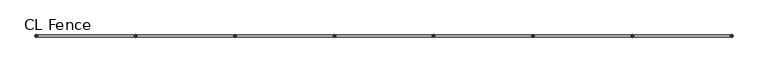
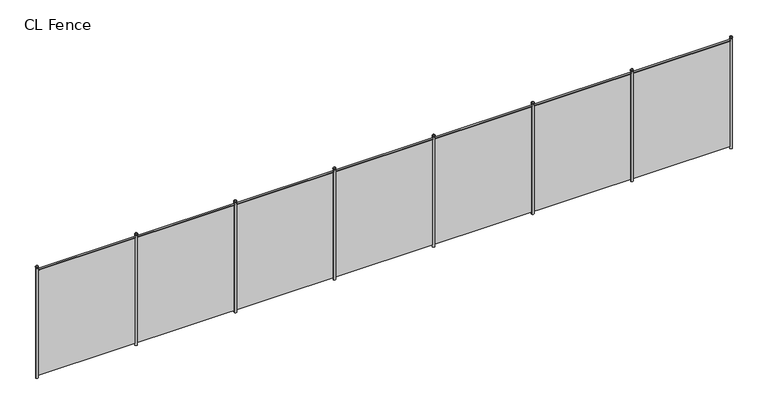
"""IFC4 building model written with IfcOpenShell, lengths in millimetres: geographic element geometry, Alambrado : CL Fence."""

from ifc_helpers import new_model, si_unit, point, frame, frame_2d, origin, place, context, project, spatial, polyline, circle_curve, ellipse_curve, trimmed, segment, composite_curve, outline, extrude, source, transform, mapped, element, save
from ifc_brep_helpers import plane_surface, cylinder_surface, revolved_surface, advanced_brep


def cl_fence_b906ae02(model_context):
    return source(origin(), model_context, "Body", "SolidModel", [
        advanced_brep(
        [(15463.5130985, 0.0, 3055.5625), (15524.4994952, 0.0, 3055.5625), (15525.7562969, 0.0, 3055.5625), (15462.2562969, 0.0, 3055.5625), (15494.0062969, 0.0, 3086.0556984), (15462.2562969, 0.0, 3033.3375), (15525.7562969, 0.0, 3033.3375), (15494.0062969, 0.0, 3033.3375), (15462.2562969, 0.0, 3050.8), (15525.7562969, 0.0, 3050.8)],
        [
            (0, 1, circle_curve(frame((15494.0062969, 0.0, 3055.5625), z_axis=(0.0, 0.0, -1.0), x_axis=(1.0, 0.0, 0.0)), 30.4931984)),
            (1, 2),
            (2, 3, circle_curve(frame((15494.0062969, 0.0, 3055.5625), z_axis=(0.0, 0.0, 1.0), x_axis=(1.0, 0.0, 0.0)), 31.75)),
            (3, 0),
            (1, 0, circle_curve(frame((15494.0062969, 0.0, 3055.5625), z_axis=(0.0, 0.0, -1.0), x_axis=(1.0, 0.0, 0.0)), 30.4931984)),
            (3, 2, circle_curve(frame((15494.0062969, 0.0, 3055.5625), z_axis=(0.0, 0.0, 1.0), x_axis=(1.0, 0.0, 0.0)), 31.75)),
            (4, 1, circle_curve(frame((15487.1506297, 0.0, 3048.7068328), z_axis=(0.0, 1.0, 0.0), x_axis=(1.0, 0.0, 0.0)), 37.9728578)),
            (0, 4, circle_curve(frame((15500.8619641, 0.0, 3048.7068328), z_axis=(0.0, 1.0, 0.0), x_axis=(-1.0, 0.0, 0.0)), 37.9728578)),
            (5, 6, circle_curve(frame((15494.0062969, 0.0, 3033.3375), z_axis=(0.0, 0.0, -1.0), x_axis=(1.0, 0.0, 0.0)), 31.75)),
            (6, 7),
            (7, 5),
            (6, 5, circle_curve(frame((15494.0062969, 0.0, 3033.3375), z_axis=(0.0, 0.0, -1.0), x_axis=(1.0, 0.0, 0.0)), 31.75)),
            (8, 9, circle_curve(frame((15494.0062969, 0.0, 3050.8), z_axis=(0.0, 0.0, -1.0), x_axis=(1.0, 0.0, 0.0)), 31.75)),
            (9, 6),
            (5, 8),
            (9, 8, circle_curve(frame((15494.0062969, 0.0, 3050.8), z_axis=(0.0, 0.0, -1.0), x_axis=(1.0, 0.0, 0.0)), 31.75)),
            (2, 9, circle_curve(frame((15525.7562969, 0.0, 3053.18125), z_axis=(0.0, 1.0, 0.0), x_axis=(1.0, 0.0, 0.0)), 2.38125)),
            (8, 3, circle_curve(frame((15462.2562969, 0.0, 3053.18125), z_axis=(0.0, 1.0, 0.0), x_axis=(-1.0, 0.0, 0.0)), 2.38125)),
        ],
        [
            plane_surface(frame((15494.0062969, 0.0, 3055.5625), z_axis=(0.0, 0.0, 1.0), x_axis=(1.0, 0.0, 0.0))),
            revolved_surface(trimmed(ellipse_curve(frame((15487.1506297, 0.0, 3048.7068328), z_axis=(0.0, -1.0, 0.0), x_axis=(1.0, 0.0, 0.0)), 37.9728578, 37.9728578), [point((15524.4994952, 0.0, 3055.5625))], [point((15494.0062969, 0.0, 3086.0556984))], True, "CARTESIAN"), (15494.0062969, 0.0, 3112.7125), (0.0, 0.0, 1.0)),
            plane_surface(frame((15494.0062969, 0.0, 3033.3375), z_axis=(0.0, 0.0, -1.0), x_axis=(1.0, 0.0, 0.0))),
            cylinder_surface(frame((15494.0062969, 0.0, 3112.7125), z_axis=(0.0, 0.0, 1.0), x_axis=(1.0, 0.0, 0.0)), 31.75),
            revolved_surface(trimmed(ellipse_curve(frame((15525.7562969, 0.0, 3053.18125), z_axis=(0.0, -1.0, 0.0), x_axis=(1.0, 0.0, 0.0)), 2.38125, 2.38125), [point((15525.7562969, 0.0, 3050.8))], [point((15525.7562969, 0.0, 3055.5625))], True, "CARTESIAN"), (15494.0062969, 0.0, 3112.7125), (0.0, 0.0, 1.0)),
        ],
        [
            (0, [[1, 2, 3, 4]]),
            (0, [[5, -4, 6, -2]]),
            (1, [[7, -1, 8]]),
            (1, [[-8, -5, -7]]),
            (2, [[9, 10, 11]]),
            (2, [[12, -11, -10]]),
            (3, [[13, 14, -9, 15]]),
            (3, [[16, -15, -12, -14]]),
            (4, [[-3, 17, -13, 18]]),
            (4, [[-6, -18, -16, -17]]),
        ],
    ),
        advanced_brep(
        [(15494.0062969, 0.0, 3050.8), (15524.1687969, 0.0, 3050.8), (15463.8437969, 0.0, 3050.8), (15463.8437969, 0.0, 0.0), (15524.1687969, 0.0, 0.0), (15494.0062969, 0.0, 0.0)],
        [
            (0, 1),
            (1, 2, circle_curve(frame((15494.0062969, 0.0, 3050.8), z_axis=(0.0, 0.0, 1.0), x_axis=(1.0, 0.0, 0.0)), 30.1625)),
            (2, 0),
            (2, 1, circle_curve(frame((15494.0062969, 0.0, 3050.8), z_axis=(0.0, 0.0, 1.0), x_axis=(1.0, 0.0, 0.0)), 30.1625)),
            (3, 4, circle_curve(frame((15494.0062969, 0.0, 0.0), z_axis=(0.0, 0.0, -1.0), x_axis=(1.0, 0.0, 0.0)), 30.1625)),
            (4, 5),
            (5, 3),
            (4, 3, circle_curve(frame((15494.0062969, 0.0, 0.0), z_axis=(0.0, 0.0, -1.0), x_axis=(1.0, 0.0, 0.0)), 30.1625)),
            (1, 4),
            (3, 2),
        ],
        [
            plane_surface(frame((15494.0062969, 0.0, 3050.8), z_axis=(0.0, 0.0, 1.0), x_axis=(1.0, 0.0, 0.0))),
            plane_surface(frame((15494.0062969, 0.0, 0.0), z_axis=(0.0, 0.0, -1.0), x_axis=(1.0, 0.0, 0.0))),
            cylinder_surface(frame((15494.0062969, 0.0, 3101.6), z_axis=(0.0, 0.0, 1.0), x_axis=(1.0, 0.0, 0.0)), 30.1625),
        ],
        [
            (0, [[1, 2, 3]]),
            (0, [[-3, 4, -1]]),
            (1, [[5, 6, 7]]),
            (1, [[8, -7, -6]]),
            (2, [[-2, 9, -5, 10]]),
            (2, [[-4, -10, -8, -9]]),
        ],
    ),
        advanced_brep(
        [(12881.1787157, 0.0, 3055.5625), (12942.1651124, 0.0, 3055.5625), (12943.4219141, 0.0, 3055.5625), (12879.9219141, 0.0, 3055.5625), (12911.6719141, 0.0, 3086.0556984), (12879.9219141, 0.0, 3033.3375), (12943.4219141, 0.0, 3033.3375), (12911.6719141, 0.0, 3033.3375), (12879.9219141, 0.0, 3050.8), (12943.4219141, 0.0, 3050.8)],
        [
            (0, 1, circle_curve(frame((12911.6719141, 0.0, 3055.5625), z_axis=(0.0, 0.0, -1.0), x_axis=(1.0, 0.0, 0.0)), 30.4931984)),
            (1, 2),
            (2, 3, circle_curve(frame((12911.6719141, 0.0, 3055.5625), z_axis=(0.0, 0.0, 1.0), x_axis=(1.0, 0.0, 0.0)), 31.75)),
            (3, 0),
            (1, 0, circle_curve(frame((12911.6719141, 0.0, 3055.5625), z_axis=(0.0, 0.0, -1.0), x_axis=(1.0, 0.0, 0.0)), 30.4931984)),
            (3, 2, circle_curve(frame((12911.6719141, 0.0, 3055.5625), z_axis=(0.0, 0.0, 1.0), x_axis=(1.0, 0.0, 0.0)), 31.75)),
            (4, 1, circle_curve(frame((12904.8162468, 0.0, 3048.7068328), z_axis=(0.0, 1.0, 0.0), x_axis=(1.0, 0.0, 0.0)), 37.9728578)),
            (0, 4, circle_curve(frame((12918.5275813, 0.0, 3048.7068328), z_axis=(0.0, 1.0, 0.0), x_axis=(-1.0, 0.0, 0.0)), 37.9728578)),
            (5, 6, circle_curve(frame((12911.6719141, 0.0, 3033.3375), z_axis=(0.0, 0.0, -1.0), x_axis=(1.0, 0.0, 0.0)), 31.75)),
            (6, 7),
            (7, 5),
            (6, 5, circle_curve(frame((12911.6719141, 0.0, 3033.3375), z_axis=(0.0, 0.0, -1.0), x_axis=(1.0, 0.0, 0.0)), 31.75)),
            (8, 9, circle_curve(frame((12911.6719141, 0.0, 3050.8), z_axis=(0.0, 0.0, -1.0), x_axis=(1.0, 0.0, 0.0)), 31.75)),
            (9, 6),
            (5, 8),
            (9, 8, circle_curve(frame((12911.6719141, 0.0, 3050.8), z_axis=(0.0, 0.0, -1.0), x_axis=(1.0, 0.0, 0.0)), 31.75)),
            (2, 9, circle_curve(frame((12943.4219141, 0.0, 3053.18125), z_axis=(0.0, 1.0, 0.0), x_axis=(1.0, 0.0, 0.0)), 2.38125)),
            (8, 3, circle_curve(frame((12879.9219141, 0.0, 3053.18125), z_axis=(0.0, 1.0, 0.0), x_axis=(-1.0, 0.0, 0.0)), 2.38125)),
        ],
        [
            plane_surface(frame((12911.6719141, 0.0, 3055.5625), z_axis=(0.0, 0.0, 1.0), x_axis=(1.0, 0.0, 0.0))),
            revolved_surface(trimmed(ellipse_curve(frame((12904.8162468, 0.0, 3048.7068328), z_axis=(0.0, -1.0, 0.0), x_axis=(1.0, 0.0, 0.0)), 37.9728578, 37.9728578), [point((12942.1651124, 0.0, 3055.5625))], [point((12911.6719141, 0.0, 3086.0556984))], True, "CARTESIAN"), (12911.6719141, 0.0, 3112.7125), (0.0, 0.0, 1.0)),
            plane_surface(frame((12911.6719141, 0.0, 3033.3375), z_axis=(0.0, 0.0, -1.0), x_axis=(1.0, 0.0, 0.0))),
            cylinder_surface(frame((12911.6719141, 0.0, 3112.7125), z_axis=(0.0, 0.0, 1.0), x_axis=(1.0, 0.0, 0.0)), 31.75),
            revolved_surface(trimmed(ellipse_curve(frame((12943.4219141, 0.0, 3053.18125), z_axis=(0.0, -1.0, 0.0), x_axis=(1.0, 0.0, 0.0)), 2.38125, 2.38125), [point((12943.4219141, 0.0, 3050.8))], [point((12943.4219141, 0.0, 3055.5625))], True, "CARTESIAN"), (12911.6719141, 0.0, 3112.7125), (0.0, 0.0, 1.0)),
        ],
        [
            (0, [[1, 2, 3, 4]]),
            (0, [[5, -4, 6, -2]]),
            (1, [[7, -1, 8]]),
            (1, [[-8, -5, -7]]),
            (2, [[9, 10, 11]]),
            (2, [[12, -11, -10]]),
            (3, [[13, 14, -9, 15]]),
            (3, [[16, -15, -12, -14]]),
            (4, [[-3, 17, -13, 18]]),
            (4, [[-6, -18, -16, -17]]),
        ],
    ),
        advanced_brep(
        [(12911.6719141, 0.0, 3050.8), (12941.8344141, 0.0, 3050.8), (12881.5094141, 0.0, 3050.8), (12881.5094141, 0.0, 0.0), (12941.8344141, 0.0, 0.0), (12911.6719141, 0.0, 0.0)],
        [
            (0, 1),
            (1, 2, circle_curve(frame((12911.6719141, 0.0, 3050.8), z_axis=(0.0, 0.0, 1.0), x_axis=(1.0, 0.0, 0.0)), 30.1625)),
            (2, 0),
            (2, 1, circle_curve(frame((12911.6719141, 0.0, 3050.8), z_axis=(0.0, 0.0, 1.0), x_axis=(1.0, 0.0, 0.0)), 30.1625)),
            (3, 4, circle_curve(frame((12911.6719141, 0.0, 0.0), z_axis=(0.0, 0.0, -1.0), x_axis=(1.0, 0.0, 0.0)), 30.1625)),
            (4, 5),
            (5, 3),
            (4, 3, circle_curve(frame((12911.6719141, 0.0, 0.0), z_axis=(0.0, 0.0, -1.0), x_axis=(1.0, 0.0, 0.0)), 30.1625)),
            (1, 4),
            (3, 2),
        ],
        [
            plane_surface(frame((12911.6719141, 0.0, 3050.8), z_axis=(0.0, 0.0, 1.0), x_axis=(1.0, 0.0, 0.0))),
            plane_surface(frame((12911.6719141, 0.0, 0.0), z_axis=(0.0, 0.0, -1.0), x_axis=(1.0, 0.0, 0.0))),
            cylinder_surface(frame((12911.6719141, 0.0, 3101.6), z_axis=(0.0, 0.0, 1.0), x_axis=(1.0, 0.0, 0.0)), 30.1625),
        ],
        [
            (0, [[1, 2, 3]]),
            (0, [[-3, 4, -1]]),
            (1, [[5, 6, 7]]),
            (1, [[8, -7, -6]]),
            (2, [[-2, 9, -5, 10]]),
            (2, [[-4, -10, -8, -9]]),
        ],
    ),
        advanced_brep(
        [(10298.8443329, 0.0, 3055.5625), (10359.8307296, 0.0, 3055.5625), (10361.0875313, 0.0, 3055.5625), (10297.5875313, 0.0, 3055.5625), (10329.3375313, 0.0, 3086.0556984), (10297.5875313, 0.0, 3033.3375), (10361.0875313, 0.0, 3033.3375), (10329.3375313, 0.0, 3033.3375), (10297.5875313, 0.0, 3050.8), (10361.0875313, 0.0, 3050.8)],
        [
            (0, 1, circle_curve(frame((10329.3375313, 0.0, 3055.5625), z_axis=(0.0, 0.0, -1.0), x_axis=(1.0, 0.0, 0.0)), 30.4931984)),
            (1, 2),
            (2, 3, circle_curve(frame((10329.3375313, 0.0, 3055.5625), z_axis=(0.0, 0.0, 1.0), x_axis=(1.0, 0.0, 0.0)), 31.75)),
            (3, 0),
            (1, 0, circle_curve(frame((10329.3375313, 0.0, 3055.5625), z_axis=(0.0, 0.0, -1.0), x_axis=(1.0, 0.0, 0.0)), 30.4931984)),
            (3, 2, circle_curve(frame((10329.3375313, 0.0, 3055.5625), z_axis=(0.0, 0.0, 1.0), x_axis=(1.0, 0.0, 0.0)), 31.75)),
            (4, 1, circle_curve(frame((10322.481864, 0.0, 3048.7068328), z_axis=(0.0, 1.0, 0.0), x_axis=(1.0, 0.0, 0.0)), 37.9728578)),
            (0, 4, circle_curve(frame((10336.1931985, 0.0, 3048.7068328), z_axis=(0.0, 1.0, 0.0), x_axis=(-1.0, 0.0, 0.0)), 37.9728578)),
            (5, 6, circle_curve(frame((10329.3375313, 0.0, 3033.3375), z_axis=(0.0, 0.0, -1.0), x_axis=(1.0, 0.0, 0.0)), 31.75)),
            (6, 7),
            (7, 5),
            (6, 5, circle_curve(frame((10329.3375313, 0.0, 3033.3375), z_axis=(0.0, 0.0, -1.0), x_axis=(1.0, 0.0, 0.0)), 31.75)),
            (8, 9, circle_curve(frame((10329.3375313, 0.0, 3050.8), z_axis=(0.0, 0.0, -1.0), x_axis=(1.0, 0.0, 0.0)), 31.75)),
            (9, 6),
            (5, 8),
            (9, 8, circle_curve(frame((10329.3375313, 0.0, 3050.8), z_axis=(0.0, 0.0, -1.0), x_axis=(1.0, 0.0, 0.0)), 31.75)),
            (2, 9, circle_curve(frame((10361.0875313, 0.0, 3053.18125), z_axis=(0.0, 1.0, 0.0), x_axis=(1.0, 0.0, 0.0)), 2.38125)),
            (8, 3, circle_curve(frame((10297.5875313, 0.0, 3053.18125), z_axis=(0.0, 1.0, 0.0), x_axis=(-1.0, 0.0, 0.0)), 2.38125)),
        ],
        [
            plane_surface(frame((10329.3375313, 0.0, 3055.5625), z_axis=(0.0, 0.0, 1.0), x_axis=(1.0, 0.0, 0.0))),
            revolved_surface(trimmed(ellipse_curve(frame((10322.481864, 0.0, 3048.7068328), z_axis=(0.0, -1.0, 0.0), x_axis=(1.0, 0.0, 0.0)), 37.9728578, 37.9728578), [point((10359.8307296, 0.0, 3055.5625))], [point((10329.3375313, 0.0, 3086.0556984))], True, "CARTESIAN"), (10329.3375313, 0.0, 3112.7125), (0.0, 0.0, 1.0)),
            plane_surface(frame((10329.3375313, 0.0, 3033.3375), z_axis=(0.0, 0.0, -1.0), x_axis=(1.0, 0.0, 0.0))),
            cylinder_surface(frame((10329.3375313, 0.0, 3112.7125), z_axis=(0.0, 0.0, 1.0), x_axis=(1.0, 0.0, 0.0)), 31.75),
            revolved_surface(trimmed(ellipse_curve(frame((10361.0875313, 0.0, 3053.18125), z_axis=(0.0, -1.0, 0.0), x_axis=(1.0, 0.0, 0.0)), 2.38125, 2.38125), [point((10361.0875313, 0.0, 3050.8))], [point((10361.0875313, 0.0, 3055.5625))], True, "CARTESIAN"), (10329.3375313, 0.0, 3112.7125), (0.0, 0.0, 1.0)),
        ],
        [
            (0, [[1, 2, 3, 4]]),
            (0, [[5, -4, 6, -2]]),
            (1, [[7, -1, 8]]),
            (1, [[-8, -5, -7]]),
            (2, [[9, 10, 11]]),
            (2, [[12, -11, -10]]),
            (3, [[13, 14, -9, 15]]),
            (3, [[16, -15, -12, -14]]),
            (4, [[-3, 17, -13, 18]]),
            (4, [[-6, -18, -16, -17]]),
        ],
    ),
        advanced_brep(
        [(10329.3375313, 0.0, 3050.8), (10359.5000313, 0.0, 3050.8), (10299.1750313, 0.0, 3050.8), (10299.1750313, 0.0, 0.0), (10359.5000313, 0.0, 0.0), (10329.3375313, 0.0, 0.0)],
        [
            (0, 1),
            (1, 2, circle_curve(frame((10329.3375313, 0.0, 3050.8), z_axis=(0.0, 0.0, 1.0), x_axis=(1.0, 0.0, 0.0)), 30.1625)),
            (2, 0),
            (2, 1, circle_curve(frame((10329.3375313, 0.0, 3050.8), z_axis=(0.0, 0.0, 1.0), x_axis=(1.0, 0.0, 0.0)), 30.1625)),
            (3, 4, circle_curve(frame((10329.3375313, 0.0, 0.0), z_axis=(0.0, 0.0, -1.0), x_axis=(1.0, 0.0, 0.0)), 30.1625)),
            (4, 5),
            (5, 3),
            (4, 3, circle_curve(frame((10329.3375313, 0.0, 0.0), z_axis=(0.0, 0.0, -1.0), x_axis=(1.0, 0.0, 0.0)), 30.1625)),
            (1, 4),
            (3, 2),
        ],
        [
            plane_surface(frame((10329.3375313, 0.0, 3050.8), z_axis=(0.0, 0.0, 1.0), x_axis=(1.0, 0.0, 0.0))),
            plane_surface(frame((10329.3375313, 0.0, 0.0), z_axis=(0.0, 0.0, -1.0), x_axis=(1.0, 0.0, 0.0))),
            cylinder_surface(frame((10329.3375313, 0.0, 3101.6), z_axis=(0.0, 0.0, 1.0), x_axis=(1.0, 0.0, 0.0)), 30.1625),
        ],
        [
            (0, [[1, 2, 3]]),
            (0, [[-3, 4, -1]]),
            (1, [[5, 6, 7]]),
            (1, [[8, -7, -6]]),
            (2, [[-2, 9, -5, 10]]),
            (2, [[-4, -10, -8, -9]]),
        ],
    ),
        advanced_brep(
        [(7716.5099501, 0.0, 3055.5625), (7777.4963468, 0.0, 3055.5625), (7778.7531484, 0.0, 3055.5625), (7715.2531484, 0.0, 3055.5625), (7747.0031484, 0.0, 3086.0556984), (7715.2531484, 0.0, 3033.3375), (7778.7531484, 0.0, 3033.3375), (7747.0031484, 0.0, 3033.3375), (7715.2531484, 0.0, 3050.8), (7778.7531484, 0.0, 3050.8)],
        [
            (0, 1, circle_curve(frame((7747.0031484, 0.0, 3055.5625), z_axis=(0.0, 0.0, -1.0), x_axis=(1.0, 0.0, 0.0)), 30.4931984)),
            (1, 2),
            (2, 3, circle_curve(frame((7747.0031484, 0.0, 3055.5625), z_axis=(0.0, 0.0, 1.0), x_axis=(1.0, 0.0, 0.0)), 31.75)),
            (3, 0),
            (1, 0, circle_curve(frame((7747.0031484, 0.0, 3055.5625), z_axis=(0.0, 0.0, -1.0), x_axis=(1.0, 0.0, 0.0)), 30.4931984)),
            (3, 2, circle_curve(frame((7747.0031484, 0.0, 3055.5625), z_axis=(0.0, 0.0, 1.0), x_axis=(1.0, 0.0, 0.0)), 31.75)),
            (4, 1, circle_curve(frame((7740.1474812, 0.0, 3048.7068328), z_axis=(0.0, 1.0, 0.0), x_axis=(1.0, 0.0, 0.0)), 37.9728578)),
            (0, 4, circle_curve(frame((7753.8588157, 0.0, 3048.7068328), z_axis=(0.0, 1.0, 0.0), x_axis=(-1.0, 0.0, 0.0)), 37.9728578)),
            (5, 6, circle_curve(frame((7747.0031484, 0.0, 3033.3375), z_axis=(0.0, 0.0, -1.0), x_axis=(1.0, 0.0, 0.0)), 31.75)),
            (6, 7),
            (7, 5),
            (6, 5, circle_curve(frame((7747.0031484, 0.0, 3033.3375), z_axis=(0.0, 0.0, -1.0), x_axis=(1.0, 0.0, 0.0)), 31.75)),
            (8, 9, circle_curve(frame((7747.0031484, 0.0, 3050.8), z_axis=(0.0, 0.0, -1.0), x_axis=(1.0, 0.0, 0.0)), 31.75)),
            (9, 6),
            (5, 8),
            (9, 8, circle_curve(frame((7747.0031484, 0.0, 3050.8), z_axis=(0.0, 0.0, -1.0), x_axis=(1.0, 0.0, 0.0)), 31.75)),
            (2, 9, circle_curve(frame((7778.7531484, 0.0, 3053.18125), z_axis=(0.0, 1.0, 0.0), x_axis=(1.0, 0.0, 0.0)), 2.38125)),
            (8, 3, circle_curve(frame((7715.2531484, 0.0, 3053.18125), z_axis=(0.0, 1.0, 0.0), x_axis=(-1.0, 0.0, 0.0)), 2.38125)),
        ],
        [
            plane_surface(frame((7747.0031484, 0.0, 3055.5625), z_axis=(0.0, 0.0, 1.0), x_axis=(1.0, 0.0, 0.0))),
            revolved_surface(trimmed(ellipse_curve(frame((7740.1474812, 0.0, 3048.7068328), z_axis=(0.0, -1.0, 0.0), x_axis=(1.0, 0.0, 0.0)), 37.9728578, 37.9728578), [point((7777.4963468, 0.0, 3055.5625))], [point((7747.0031484, 0.0, 3086.0556984))], True, "CARTESIAN"), (7747.0031484, 0.0, 3112.7125), (0.0, 0.0, 1.0)),
            plane_surface(frame((7747.0031484, 0.0, 3033.3375), z_axis=(0.0, 0.0, -1.0), x_axis=(1.0, 0.0, 0.0))),
            cylinder_surface(frame((7747.0031484, 0.0, 3112.7125), z_axis=(0.0, 0.0, 1.0), x_axis=(1.0, 0.0, 0.0)), 31.75),
            revolved_surface(trimmed(ellipse_curve(frame((7778.7531484, 0.0, 3053.18125), z_axis=(0.0, -1.0, 0.0), x_axis=(1.0, 0.0, 0.0)), 2.38125, 2.38125), [point((7778.7531484, 0.0, 3050.8))], [point((7778.7531484, 0.0, 3055.5625))], True, "CARTESIAN"), (7747.0031484, 0.0, 3112.7125), (0.0, 0.0, 1.0)),
        ],
        [
            (0, [[1, 2, 3, 4]]),
            (0, [[5, -4, 6, -2]]),
            (1, [[7, -1, 8]]),
            (1, [[-8, -5, -7]]),
            (2, [[9, 10, 11]]),
            (2, [[12, -11, -10]]),
            (3, [[13, 14, -9, 15]]),
            (3, [[16, -15, -12, -14]]),
            (4, [[-3, 17, -13, 18]]),
            (4, [[-6, -18, -16, -17]]),
        ],
    ),
        advanced_brep(
        [(7747.0031484, 0.0, 3050.8), (7777.1656484, 0.0, 3050.8), (7716.8406484, 0.0, 3050.8), (7716.8406484, 0.0, 0.0), (7777.1656484, 0.0, 0.0), (7747.0031484, 0.0, 0.0)],
        [
            (0, 1),
            (1, 2, circle_curve(frame((7747.0031484, 0.0, 3050.8), z_axis=(0.0, 0.0, 1.0), x_axis=(1.0, 0.0, 0.0)), 30.1625)),
            (2, 0),
            (2, 1, circle_curve(frame((7747.0031484, 0.0, 3050.8), z_axis=(0.0, 0.0, 1.0), x_axis=(1.0, 0.0, 0.0)), 30.1625)),
            (3, 4, circle_curve(frame((7747.0031484, 0.0, 0.0), z_axis=(0.0, 0.0, -1.0), x_axis=(1.0, 0.0, 0.0)), 30.1625)),
            (4, 5),
            (5, 3),
            (4, 3, circle_curve(frame((7747.0031484, 0.0, 0.0), z_axis=(0.0, 0.0, -1.0), x_axis=(1.0, 0.0, 0.0)), 30.1625)),
            (1, 4),
            (3, 2),
        ],
        [
            plane_surface(frame((7747.0031484, 0.0, 3050.8), z_axis=(0.0, 0.0, 1.0), x_axis=(1.0, 0.0, 0.0))),
            plane_surface(frame((7747.0031484, 0.0, 0.0), z_axis=(0.0, 0.0, -1.0), x_axis=(1.0, 0.0, 0.0))),
            cylinder_surface(frame((7747.0031484, 0.0, 3101.6), z_axis=(0.0, 0.0, 1.0), x_axis=(1.0, 0.0, 0.0)), 30.1625),
        ],
        [
            (0, [[1, 2, 3]]),
            (0, [[-3, 4, -1]]),
            (1, [[5, 6, 7]]),
            (1, [[8, -7, -6]]),
            (2, [[-2, 9, -5, 10]]),
            (2, [[-4, -10, -8, -9]]),
        ],
    ),
        advanced_brep(
        [(5134.1755673, 0.0, 3055.5625), (5195.161964, 0.0, 3055.5625), (5196.4187656, 0.0, 3055.5625), (5132.9187656, 0.0, 3055.5625), (5164.6687656, 0.0, 3086.0556984), (5132.9187656, 0.0, 3033.3375), (5196.4187656, 0.0, 3033.3375), (5164.6687656, 0.0, 3033.3375), (5132.9187656, 0.0, 3050.8), (5196.4187656, 0.0, 3050.8)],
        [
            (0, 1, circle_curve(frame((5164.6687656, 0.0, 3055.5625), z_axis=(0.0, 0.0, -1.0), x_axis=(1.0, 0.0, 0.0)), 30.4931984)),
            (1, 2),
            (2, 3, circle_curve(frame((5164.6687656, 0.0, 3055.5625), z_axis=(0.0, 0.0, 1.0), x_axis=(1.0, 0.0, 0.0)), 31.75)),
            (3, 0),
            (1, 0, circle_curve(frame((5164.6687656, 0.0, 3055.5625), z_axis=(0.0, 0.0, -1.0), x_axis=(1.0, 0.0, 0.0)), 30.4931984)),
            (3, 2, circle_curve(frame((5164.6687656, 0.0, 3055.5625), z_axis=(0.0, 0.0, 1.0), x_axis=(1.0, 0.0, 0.0)), 31.75)),
            (4, 1, circle_curve(frame((5157.8130984, 0.0, 3048.7068328), z_axis=(0.0, 1.0, 0.0), x_axis=(1.0, 0.0, 0.0)), 37.9728578)),
            (0, 4, circle_curve(frame((5171.5244329, 0.0, 3048.7068328), z_axis=(0.0, 1.0, 0.0), x_axis=(-1.0, 0.0, 0.0)), 37.9728578)),
            (5, 6, circle_curve(frame((5164.6687656, 0.0, 3033.3375), z_axis=(0.0, 0.0, -1.0), x_axis=(1.0, 0.0, 0.0)), 31.75)),
            (6, 7),
            (7, 5),
            (6, 5, circle_curve(frame((5164.6687656, 0.0, 3033.3375), z_axis=(0.0, 0.0, -1.0), x_axis=(1.0, 0.0, 0.0)), 31.75)),
            (8, 9, circle_curve(frame((5164.6687656, 0.0, 3050.8), z_axis=(0.0, 0.0, -1.0), x_axis=(1.0, 0.0, 0.0)), 31.75)),
            (9, 6),
            (5, 8),
            (9, 8, circle_curve(frame((5164.6687656, 0.0, 3050.8), z_axis=(0.0, 0.0, -1.0), x_axis=(1.0, 0.0, 0.0)), 31.75)),
            (2, 9, circle_curve(frame((5196.4187656, 0.0, 3053.18125), z_axis=(0.0, 1.0, 0.0), x_axis=(1.0, 0.0, 0.0)), 2.38125)),
            (8, 3, circle_curve(frame((5132.9187656, 0.0, 3053.18125), z_axis=(0.0, 1.0, 0.0), x_axis=(-1.0, 0.0, 0.0)), 2.38125)),
        ],
        [
            plane_surface(frame((5164.6687656, 0.0, 3055.5625), z_axis=(0.0, 0.0, 1.0), x_axis=(1.0, 0.0, 0.0))),
            revolved_surface(trimmed(ellipse_curve(frame((5157.8130984, 0.0, 3048.7068328), z_axis=(0.0, -1.0, 0.0), x_axis=(1.0, 0.0, 0.0)), 37.9728578, 37.9728578), [point((5195.161964, 0.0, 3055.5625))], [point((5164.6687656, 0.0, 3086.0556984))], True, "CARTESIAN"), (5164.6687656, 0.0, 3112.7125), (0.0, 0.0, 1.0)),
            plane_surface(frame((5164.6687656, 0.0, 3033.3375), z_axis=(0.0, 0.0, -1.0), x_axis=(1.0, 0.0, 0.0))),
            cylinder_surface(frame((5164.6687656, 0.0, 3112.7125), z_axis=(0.0, 0.0, 1.0), x_axis=(1.0, 0.0, 0.0)), 31.75),
            revolved_surface(trimmed(ellipse_curve(frame((5196.4187656, 0.0, 3053.18125), z_axis=(0.0, -1.0, 0.0), x_axis=(1.0, 0.0, 0.0)), 2.38125, 2.38125), [point((5196.4187656, 0.0, 3050.8))], [point((5196.4187656, 0.0, 3055.5625))], True, "CARTESIAN"), (5164.6687656, 0.0, 3112.7125), (0.0, 0.0, 1.0)),
        ],
        [
            (0, [[1, 2, 3, 4]]),
            (0, [[5, -4, 6, -2]]),
            (1, [[7, -1, 8]]),
            (1, [[-8, -5, -7]]),
            (2, [[9, 10, 11]]),
            (2, [[12, -11, -10]]),
            (3, [[13, 14, -9, 15]]),
            (3, [[16, -15, -12, -14]]),
            (4, [[-3, 17, -13, 18]]),
            (4, [[-6, -18, -16, -17]]),
        ],
    ),
        advanced_brep(
        [(5164.6687656, 0.0, 3050.8), (5194.8312656, 0.0, 3050.8), (5134.5062656, 0.0, 3050.8), (5134.5062656, 0.0, 0.0), (5194.8312656, 0.0, 0.0), (5164.6687656, 0.0, 0.0)],
        [
            (0, 1),
            (1, 2, circle_curve(frame((5164.6687656, 0.0, 3050.8), z_axis=(0.0, 0.0, 1.0), x_axis=(1.0, 0.0, 0.0)), 30.1625)),
            (2, 0),
            (2, 1, circle_curve(frame((5164.6687656, 0.0, 3050.8), z_axis=(0.0, 0.0, 1.0), x_axis=(1.0, 0.0, 0.0)), 30.1625)),
            (3, 4, circle_curve(frame((5164.6687656, 0.0, 0.0), z_axis=(0.0, 0.0, -1.0), x_axis=(1.0, 0.0, 0.0)), 30.1625)),
            (4, 5),
            (5, 3),
            (4, 3, circle_curve(frame((5164.6687656, 0.0, 0.0), z_axis=(0.0, 0.0, -1.0), x_axis=(1.0, 0.0, 0.0)), 30.1625)),
            (1, 4),
            (3, 2),
        ],
        [
            plane_surface(frame((5164.6687656, 0.0, 3050.8), z_axis=(0.0, 0.0, 1.0), x_axis=(1.0, 0.0, 0.0))),
            plane_surface(frame((5164.6687656, 0.0, 0.0), z_axis=(0.0, 0.0, -1.0), x_axis=(1.0, 0.0, 0.0))),
            cylinder_surface(frame((5164.6687656, 0.0, 3101.6), z_axis=(0.0, 0.0, 1.0), x_axis=(1.0, 0.0, 0.0)), 30.1625),
        ],
        [
            (0, [[1, 2, 3]]),
            (0, [[-3, 4, -1]]),
            (1, [[5, 6, 7]]),
            (1, [[8, -7, -6]]),
            (2, [[-2, 9, -5, 10]]),
            (2, [[-4, -10, -8, -9]]),
        ],
    ),
        advanced_brep(
        [(2551.8411845, 0.0, 3055.5625), (2612.8275812, 0.0, 3055.5625), (2614.0843828, 0.0, 3055.5625), (2550.5843828, 0.0, 3055.5625), (2582.3343828, 0.0, 3086.0556984), (2550.5843828, 0.0, 3033.3375), (2614.0843828, 0.0, 3033.3375), (2582.3343828, 0.0, 3033.3375), (2550.5843828, 0.0, 3050.8), (2614.0843828, 0.0, 3050.8)],
        [
            (0, 1, circle_curve(frame((2582.3343828, 0.0, 3055.5625), z_axis=(0.0, 0.0, -1.0), x_axis=(1.0, 0.0, 0.0)), 30.4931984)),
            (1, 2),
            (2, 3, circle_curve(frame((2582.3343828, 0.0, 3055.5625), z_axis=(0.0, 0.0, 1.0), x_axis=(1.0, 0.0, 0.0)), 31.75)),
            (3, 0),
            (1, 0, circle_curve(frame((2582.3343828, 0.0, 3055.5625), z_axis=(0.0, 0.0, -1.0), x_axis=(1.0, 0.0, 0.0)), 30.4931984)),
            (3, 2, circle_curve(frame((2582.3343828, 0.0, 3055.5625), z_axis=(0.0, 0.0, 1.0), x_axis=(1.0, 0.0, 0.0)), 31.75)),
            (4, 1, circle_curve(frame((2575.4787156, 0.0, 3048.7068328), z_axis=(0.0, 1.0, 0.0), x_axis=(1.0, 0.0, 0.0)), 37.9728578)),
            (0, 4, circle_curve(frame((2589.19005, 0.0, 3048.7068328), z_axis=(0.0, 1.0, 0.0), x_axis=(-1.0, 0.0, 0.0)), 37.9728578)),
            (5, 6, circle_curve(frame((2582.3343828, 0.0, 3033.3375), z_axis=(0.0, 0.0, -1.0), x_axis=(1.0, 0.0, 0.0)), 31.75)),
            (6, 7),
            (7, 5),
            (6, 5, circle_curve(frame((2582.3343828, 0.0, 3033.3375), z_axis=(0.0, 0.0, -1.0), x_axis=(1.0, 0.0, 0.0)), 31.75)),
            (8, 9, circle_curve(frame((2582.3343828, 0.0, 3050.8), z_axis=(0.0, 0.0, -1.0), x_axis=(1.0, 0.0, 0.0)), 31.75)),
            (9, 6),
            (5, 8),
            (9, 8, circle_curve(frame((2582.3343828, 0.0, 3050.8), z_axis=(0.0, 0.0, -1.0), x_axis=(1.0, 0.0, 0.0)), 31.75)),
            (2, 9, circle_curve(frame((2614.0843828, 0.0, 3053.18125), z_axis=(0.0, 1.0, 0.0), x_axis=(1.0, 0.0, 0.0)), 2.38125)),
            (8, 3, circle_curve(frame((2550.5843828, 0.0, 3053.18125), z_axis=(0.0, 1.0, 0.0), x_axis=(-1.0, 0.0, 0.0)), 2.38125)),
        ],
        [
            plane_surface(frame((2582.3343828, 0.0, 3055.5625), z_axis=(0.0, 0.0, 1.0), x_axis=(1.0, 0.0, 0.0))),
            revolved_surface(trimmed(ellipse_curve(frame((2575.4787156, 0.0, 3048.7068328), z_axis=(0.0, -1.0, 0.0), x_axis=(1.0, 0.0, 0.0)), 37.9728578, 37.9728578), [point((2612.8275812, 0.0, 3055.5625))], [point((2582.3343828, 0.0, 3086.0556984))], True, "CARTESIAN"), (2582.3343828, 0.0, 3112.7125), (0.0, 0.0, 1.0)),
            plane_surface(frame((2582.3343828, 0.0, 3033.3375), z_axis=(0.0, 0.0, -1.0), x_axis=(1.0, 0.0, 0.0))),
            cylinder_surface(frame((2582.3343828, 0.0, 3112.7125), z_axis=(0.0, 0.0, 1.0), x_axis=(1.0, 0.0, 0.0)), 31.75),
            revolved_surface(trimmed(ellipse_curve(frame((2614.0843828, 0.0, 3053.18125), z_axis=(0.0, -1.0, 0.0), x_axis=(1.0, 0.0, 0.0)), 2.38125, 2.38125), [point((2614.0843828, 0.0, 3050.8))], [point((2614.0843828, 0.0, 3055.5625))], True, "CARTESIAN"), (2582.3343828, 0.0, 3112.7125), (0.0, 0.0, 1.0)),
        ],
        [
            (0, [[1, 2, 3, 4]]),
            (0, [[5, -4, 6, -2]]),
            (1, [[7, -1, 8]]),
            (1, [[-8, -5, -7]]),
            (2, [[9, 10, 11]]),
            (2, [[12, -11, -10]]),
            (3, [[13, 14, -9, 15]]),
            (3, [[16, -15, -12, -14]]),
            (4, [[-3, 17, -13, 18]]),
            (4, [[-6, -18, -16, -17]]),
        ],
    ),
        advanced_brep(
        [(2582.3343828, 0.0, 3050.8), (2612.4968828, 0.0, 3050.8), (2552.1718828, 0.0, 3050.8), (2552.1718828, 0.0, 0.0), (2612.4968828, 0.0, 0.0), (2582.3343828, 0.0, 0.0)],
        [
            (0, 1),
            (1, 2, circle_curve(frame((2582.3343828, 0.0, 3050.8), z_axis=(0.0, 0.0, 1.0), x_axis=(1.0, 0.0, 0.0)), 30.1625)),
            (2, 0),
            (2, 1, circle_curve(frame((2582.3343828, 0.0, 3050.8), z_axis=(0.0, 0.0, 1.0), x_axis=(1.0, 0.0, 0.0)), 30.1625)),
            (3, 4, circle_curve(frame((2582.3343828, 0.0, 0.0), z_axis=(0.0, 0.0, -1.0), x_axis=(1.0, 0.0, 0.0)), 30.1625)),
            (4, 5),
            (5, 3),
            (4, 3, circle_curve(frame((2582.3343828, 0.0, 0.0), z_axis=(0.0, 0.0, -1.0), x_axis=(1.0, 0.0, 0.0)), 30.1625)),
            (1, 4),
            (3, 2),
        ],
        [
            plane_surface(frame((2582.3343828, 0.0, 3050.8), z_axis=(0.0, 0.0, 1.0), x_axis=(1.0, 0.0, 0.0))),
            plane_surface(frame((2582.3343828, 0.0, 0.0), z_axis=(0.0, 0.0, -1.0), x_axis=(1.0, 0.0, 0.0))),
            cylinder_surface(frame((2582.3343828, 0.0, 3101.6), z_axis=(0.0, 0.0, 1.0), x_axis=(1.0, 0.0, 0.0)), 30.1625),
        ],
        [
            (0, [[1, 2, 3]]),
            (0, [[-3, 4, -1]]),
            (1, [[5, 6, 7]]),
            (1, [[8, -7, -6]]),
            (2, [[-2, 9, -5, 10]]),
            (2, [[-4, -10, -8, -9]]),
        ],
    ),
        advanced_brep(
        [(18045.8474814, 0.0, 3055.5625), (18106.8338781, 0.0, 3055.5625), (18108.0906797, 0.0, 3055.5625), (18044.5906797, 0.0, 3055.5625), (18076.3406797, 0.0, 3086.0556984), (18044.5906797, 0.0, 3033.3375), (18108.0906797, 0.0, 3033.3375), (18076.3406797, 0.0, 3033.3375), (18044.5906797, 0.0, 3050.8), (18108.0906797, 0.0, 3050.8)],
        [
            (0, 1, circle_curve(frame((18076.3406797, 0.0, 3055.5625), z_axis=(0.0, 0.0, -1.0), x_axis=(1.0, 0.0, 0.0)), 30.4931984)),
            (1, 2),
            (2, 3, circle_curve(frame((18076.3406797, 0.0, 3055.5625), z_axis=(0.0, 0.0, 1.0), x_axis=(1.0, 0.0, 0.0)), 31.75)),
            (3, 0),
            (1, 0, circle_curve(frame((18076.3406797, 0.0, 3055.5625), z_axis=(0.0, 0.0, -1.0), x_axis=(1.0, 0.0, 0.0)), 30.4931984)),
            (3, 2, circle_curve(frame((18076.3406797, 0.0, 3055.5625), z_axis=(0.0, 0.0, 1.0), x_axis=(1.0, 0.0, 0.0)), 31.75)),
            (4, 1, circle_curve(frame((18069.4850125, 0.0, 3048.7068328), z_axis=(0.0, 1.0, 0.0), x_axis=(1.0, 0.0, 0.0)), 37.9728578)),
            (0, 4, circle_curve(frame((18083.1963469, 0.0, 3048.7068328), z_axis=(0.0, 1.0, 0.0), x_axis=(-1.0, 0.0, 0.0)), 37.9728578)),
            (5, 6, circle_curve(frame((18076.3406797, 0.0, 3033.3375), z_axis=(0.0, 0.0, -1.0), x_axis=(1.0, 0.0, 0.0)), 31.75)),
            (6, 7),
            (7, 5),
            (6, 5, circle_curve(frame((18076.3406797, 0.0, 3033.3375), z_axis=(0.0, 0.0, -1.0), x_axis=(1.0, 0.0, 0.0)), 31.75)),
            (8, 9, circle_curve(frame((18076.3406797, 0.0, 3050.8), z_axis=(0.0, 0.0, -1.0), x_axis=(1.0, 0.0, 0.0)), 31.75)),
            (9, 6),
            (5, 8),
            (9, 8, circle_curve(frame((18076.3406797, 0.0, 3050.8), z_axis=(0.0, 0.0, -1.0), x_axis=(1.0, 0.0, 0.0)), 31.75)),
            (2, 9, circle_curve(frame((18108.0906797, 0.0, 3053.18125), z_axis=(0.0, 1.0, 0.0), x_axis=(1.0, 0.0, 0.0)), 2.38125)),
            (8, 3, circle_curve(frame((18044.5906797, 0.0, 3053.18125), z_axis=(0.0, 1.0, 0.0), x_axis=(-1.0, 0.0, 0.0)), 2.38125)),
        ],
        [
            plane_surface(frame((18076.3406797, 0.0, 3055.5625), z_axis=(0.0, 0.0, 1.0), x_axis=(1.0, 0.0, 0.0))),
            revolved_surface(trimmed(ellipse_curve(frame((18069.4850125, 0.0, 3048.7068328), z_axis=(0.0, -1.0, 0.0), x_axis=(1.0, 0.0, 0.0)), 37.9728578, 37.9728578), [point((18106.8338781, 0.0, 3055.5625))], [point((18076.3406797, 0.0, 3086.0556984))], True, "CARTESIAN"), (18076.3406797, 0.0, 3112.7125), (0.0, 0.0, 1.0)),
            plane_surface(frame((18076.3406797, 0.0, 3033.3375), z_axis=(0.0, 0.0, -1.0), x_axis=(1.0, 0.0, 0.0))),
            cylinder_surface(frame((18076.3406797, 0.0, 3112.7125), z_axis=(0.0, 0.0, 1.0), x_axis=(1.0, 0.0, 0.0)), 31.75),
            revolved_surface(trimmed(ellipse_curve(frame((18108.0906797, 0.0, 3053.18125), z_axis=(0.0, -1.0, 0.0), x_axis=(1.0, 0.0, 0.0)), 2.38125, 2.38125), [point((18108.0906797, 0.0, 3050.8))], [point((18108.0906797, 0.0, 3055.5625))], True, "CARTESIAN"), (18076.3406797, 0.0, 3112.7125), (0.0, 0.0, 1.0)),
        ],
        [
            (0, [[1, 2, 3, 4]]),
            (0, [[5, -4, 6, -2]]),
            (1, [[7, -1, 8]]),
            (1, [[-8, -5, -7]]),
            (2, [[9, 10, 11]]),
            (2, [[12, -11, -10]]),
            (3, [[13, 14, -9, 15]]),
            (3, [[16, -15, -12, -14]]),
            (4, [[-3, 17, -13, 18]]),
            (4, [[-6, -18, -16, -17]]),
        ],
    ),
        advanced_brep(
        [(18076.3406797, 0.0, 3050.8), (18106.5031797, 0.0, 3050.8), (18046.1781797, 0.0, 3050.8), (18046.1781797, 0.0, 0.0), (18106.5031797, 0.0, 0.0), (18076.3406797, 0.0, 0.0)],
        [
            (0, 1),
            (1, 2, circle_curve(frame((18076.3406797, 0.0, 3050.8), z_axis=(0.0, 0.0, 1.0), x_axis=(1.0, 0.0, 0.0)), 30.1625)),
            (2, 0),
            (2, 1, circle_curve(frame((18076.3406797, 0.0, 3050.8), z_axis=(0.0, 0.0, 1.0), x_axis=(1.0, 0.0, 0.0)), 30.1625)),
            (3, 4, circle_curve(frame((18076.3406797, 0.0, 0.0), z_axis=(0.0, 0.0, -1.0), x_axis=(1.0, 0.0, 0.0)), 30.1625)),
            (4, 5),
            (5, 3),
            (4, 3, circle_curve(frame((18076.3406797, 0.0, 0.0), z_axis=(0.0, 0.0, -1.0), x_axis=(1.0, 0.0, 0.0)), 30.1625)),
            (1, 4),
            (3, 2),
        ],
        [
            plane_surface(frame((18076.3406797, 0.0, 3050.8), z_axis=(0.0, 0.0, 1.0), x_axis=(1.0, 0.0, 0.0))),
            plane_surface(frame((18076.3406797, 0.0, 0.0), z_axis=(0.0, 0.0, -1.0), x_axis=(1.0, 0.0, 0.0))),
            cylinder_surface(frame((18076.3406797, 0.0, 3101.6), z_axis=(0.0, 0.0, 1.0), x_axis=(1.0, 0.0, 0.0)), 30.1625),
        ],
        [
            (0, [[1, 2, 3]]),
            (0, [[-3, 4, -1]]),
            (1, [[5, 6, 7]]),
            (1, [[8, -7, -6]]),
            (2, [[-2, 9, -5, 10]]),
            (2, [[-4, -10, -8, -9]]),
        ],
    ),
        advanced_brep(
        [(-30.4931984, 0.0, 3055.5625), (30.4931984, 0.0, 3055.5625), (31.75, 0.0, 3055.5625), (-31.75, 0.0, 3055.5625), (0.0, 0.0, 3086.0556984), (-31.75, 0.0, 3033.3375), (31.75, 0.0, 3033.3375), (0.0, 0.0, 3033.3375), (-31.75, 0.0, 3050.8), (31.75, 0.0, 3050.8)],
        [
            (0, 1, circle_curve(frame((0.0, 0.0, 3055.5625), z_axis=(0.0, 0.0, -1.0), x_axis=(1.0, 0.0, 0.0)), 30.4931984)),
            (1, 2),
            (2, 3, circle_curve(frame((0.0, 0.0, 3055.5625), z_axis=(0.0, 0.0, 1.0), x_axis=(1.0, 0.0, 0.0)), 31.75)),
            (3, 0),
            (1, 0, circle_curve(frame((0.0, 0.0, 3055.5625), z_axis=(0.0, 0.0, -1.0), x_axis=(1.0, 0.0, 0.0)), 30.4931984)),
            (3, 2, circle_curve(frame((0.0, 0.0, 3055.5625), z_axis=(0.0, 0.0, 1.0), x_axis=(1.0, 0.0, 0.0)), 31.75)),
            (4, 1, circle_curve(frame((-6.8556672, 0.0, 3048.7068328), z_axis=(0.0, 1.0, 0.0), x_axis=(1.0, 0.0, 0.0)), 37.9728578)),
            (0, 4, circle_curve(frame((6.8556672, 0.0, 3048.7068328), z_axis=(0.0, 1.0, 0.0), x_axis=(-1.0, 0.0, 0.0)), 37.9728578)),
            (5, 6, circle_curve(frame((0.0, 0.0, 3033.3375), z_axis=(0.0, 0.0, -1.0), x_axis=(1.0, 0.0, 0.0)), 31.75)),
            (6, 7),
            (7, 5),
            (6, 5, circle_curve(frame((0.0, 0.0, 3033.3375), z_axis=(0.0, 0.0, -1.0), x_axis=(1.0, 0.0, 0.0)), 31.75)),
            (8, 9, circle_curve(frame((0.0, 0.0, 3050.8), z_axis=(0.0, 0.0, -1.0), x_axis=(1.0, 0.0, 0.0)), 31.75)),
            (9, 6),
            (5, 8),
            (9, 8, circle_curve(frame((0.0, 0.0, 3050.8), z_axis=(0.0, 0.0, -1.0), x_axis=(1.0, 0.0, 0.0)), 31.75)),
            (2, 9, circle_curve(frame((31.75, 0.0, 3053.18125), z_axis=(0.0, 1.0, 0.0), x_axis=(1.0, 0.0, 0.0)), 2.38125)),
            (8, 3, circle_curve(frame((-31.75, 0.0, 3053.18125), z_axis=(0.0, 1.0, 0.0), x_axis=(-1.0, 0.0, 0.0)), 2.38125)),
        ],
        [
            plane_surface(frame((0.0, 0.0, 3055.5625), z_axis=(0.0, 0.0, 1.0), x_axis=(1.0, 0.0, 0.0))),
            revolved_surface(trimmed(ellipse_curve(frame((-6.8556672, 0.0, 3048.7068328), z_axis=(0.0, -1.0, 0.0), x_axis=(1.0, 0.0, 0.0)), 37.9728578, 37.9728578), [point((30.4931984, 0.0, 3055.5625))], [point((0.0, 0.0, 3086.0556984))], True, "CARTESIAN"), (0.0, 0.0, 3112.7125), (0.0, 0.0, 1.0)),
            plane_surface(frame((0.0, 0.0, 3033.3375), z_axis=(0.0, 0.0, -1.0), x_axis=(1.0, 0.0, 0.0))),
            cylinder_surface(frame((0.0, 0.0, 3112.7125), z_axis=(0.0, 0.0, 1.0), x_axis=(1.0, 0.0, 0.0)), 31.75),
            revolved_surface(trimmed(ellipse_curve(frame((31.75, 0.0, 3053.18125), z_axis=(0.0, -1.0, 0.0), x_axis=(1.0, 0.0, 0.0)), 2.38125, 2.38125), [point((31.75, 0.0, 3050.8))], [point((31.75, 0.0, 3055.5625))], True, "CARTESIAN"), (0.0, 0.0, 3112.7125), (0.0, 0.0, 1.0)),
        ],
        [
            (0, [[1, 2, 3, 4]]),
            (0, [[5, -4, 6, -2]]),
            (1, [[7, -1, 8]]),
            (1, [[-8, -5, -7]]),
            (2, [[9, 10, 11]]),
            (2, [[12, -11, -10]]),
            (3, [[13, 14, -9, 15]]),
            (3, [[16, -15, -12, -14]]),
            (4, [[-3, 17, -13, 18]]),
            (4, [[-6, -18, -16, -17]]),
        ],
    ),
        advanced_brep(
        [(0.0, 0.0, 3050.8), (30.1625, 0.0, 3050.8), (-30.1625, 0.0, 3050.8), (-30.1625, 0.0, 0.0), (30.1625, 0.0, 0.0), (0.0, 0.0, 0.0)],
        [
            (0, 1),
            (1, 2, circle_curve(frame((0.0, 0.0, 3050.8), z_axis=(0.0, 0.0, 1.0), x_axis=(1.0, 0.0, 0.0)), 30.1625)),
            (2, 0),
            (2, 1, circle_curve(frame((0.0, 0.0, 3050.8), z_axis=(0.0, 0.0, 1.0), x_axis=(1.0, 0.0, 0.0)), 30.1625)),
            (3, 4, circle_curve(frame((0.0, 0.0, 0.0), z_axis=(0.0, 0.0, -1.0), x_axis=(1.0, 0.0, 0.0)), 30.1625)),
            (4, 5),
            (5, 3),
            (4, 3, circle_curve(frame((0.0, 0.0, 0.0), z_axis=(0.0, 0.0, -1.0), x_axis=(1.0, 0.0, 0.0)), 30.1625)),
            (1, 4),
            (3, 2),
        ],
        [
            plane_surface(frame((0.0, 0.0, 3050.8), z_axis=(0.0, 0.0, 1.0), x_axis=(1.0, 0.0, 0.0))),
            plane_surface(frame((0.0, 0.0, 0.0), z_axis=(0.0, 0.0, -1.0), x_axis=(1.0, 0.0, 0.0))),
            cylinder_surface(frame((0.0, 0.0, 3101.6), z_axis=(0.0, 0.0, 1.0), x_axis=(1.0, 0.0, 0.0)), 30.1625),
        ],
        [
            (0, [[1, 2, 3]]),
            (0, [[-3, 4, -1]]),
            (1, [[5, 6, 7]]),
            (1, [[8, -7, -6]]),
            (2, [[-2, 9, -5, 10]]),
            (2, [[-4, -10, -8, -9]]),
        ],
    ),
        extrude(outline(composite_curve([segment(trimmed(circle_curve(frame_2d((0.0, 2979.3625)), 20.6375), [point((-20.6375, 2979.3625))], [point((20.6375, 2979.3625))], False, "CARTESIAN"), True, "CONTINUOUS"), segment(trimmed(circle_curve(frame_2d((0.0, 2979.3625)), 20.6375), [point((20.6375, 2979.3625))], [point((-20.6375, 2979.3625))], False, "CARTESIAN"), True, "CONTINUOUS")], self_intersect=False)), frame((30.1625, 0.0, 0.0), z_axis=(1.0, 0.0, 0.0), x_axis=(0.0, 1.0, 0.0)), (0.0, 0.0, 1.0), 18016.0156797),
        extrude(outline(polyline([(18046.1781797, 1.5875), (18046.1781797, -1.5875), (30.1625, -1.5875), (30.1625, 1.5875), (18046.1781797, 1.5875)])), frame((0.0, 0.0, 50.8), z_axis=(0.0, 0.0, 1.0), x_axis=(1.0, 0.0, 0.0)), (0.0, 0.0, 1.0), 2928.5625),
    ])


if __name__ == "__main__":
    model = new_model("IFC4")
    model_context = context("Model", 3, world=origin())
    ifc_project = project(units=[si_unit("LENGTHUNIT", "METRE", prefix="MILLI")], contexts=[model_context])
    site = spatial("IfcSite", under=ifc_project)
    building = spatial("IfcBuilding", under=site)
    placement = place(None, origin())
    cl_fence_shape = cl_fence_b906ae02(model_context)
    element("IfcGeographicElement", 1, ObjectType="Alambrado : CL Fence", at=placement, inside=building, context=model_context, shape_type="MappedRepresentation", body=[
        mapped(cl_fence_shape, transform((0.0, 0.0, 0.0), x_axis=(1.0, 0.0, 0.0), y_axis=(0.0, 1.0, 0.0), z_axis=(0.0, 0.0, 1.0))),
    ])
    save(model, "model.ifc")
